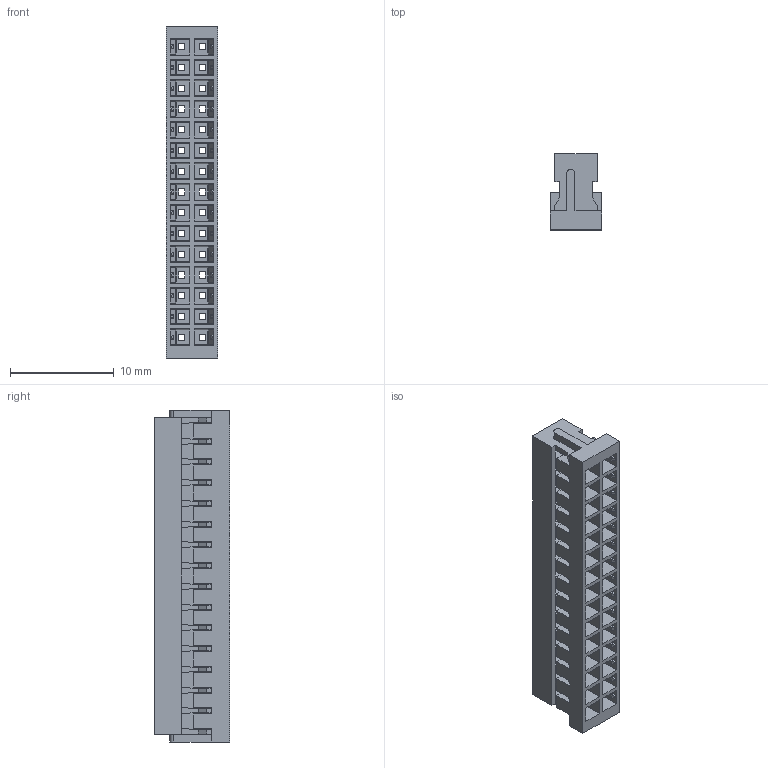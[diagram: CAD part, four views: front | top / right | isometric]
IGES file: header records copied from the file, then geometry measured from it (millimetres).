
Global section: file name: T:/3DWEB公開/NCW/DF11/DF11-#DS-C/DF11-30DS-2C, ; native system: SolidDesigner 12.00  10-Sep-2003; preprocessor: OneSpace IGES_3D V1.0; author: Unknown; organization: Unknown; date: 20070322.140249; units: millimetre
Bounding box: 5 x 7.3 x 32 mm (x, y, z)
Volume: 486.5 mm3; surface area: 2131.4 mm2
Topology: 1 solids, 1 shells, 926 faces, 2592 edges, 1638 vertices
Faces by surface type: bspline 926
